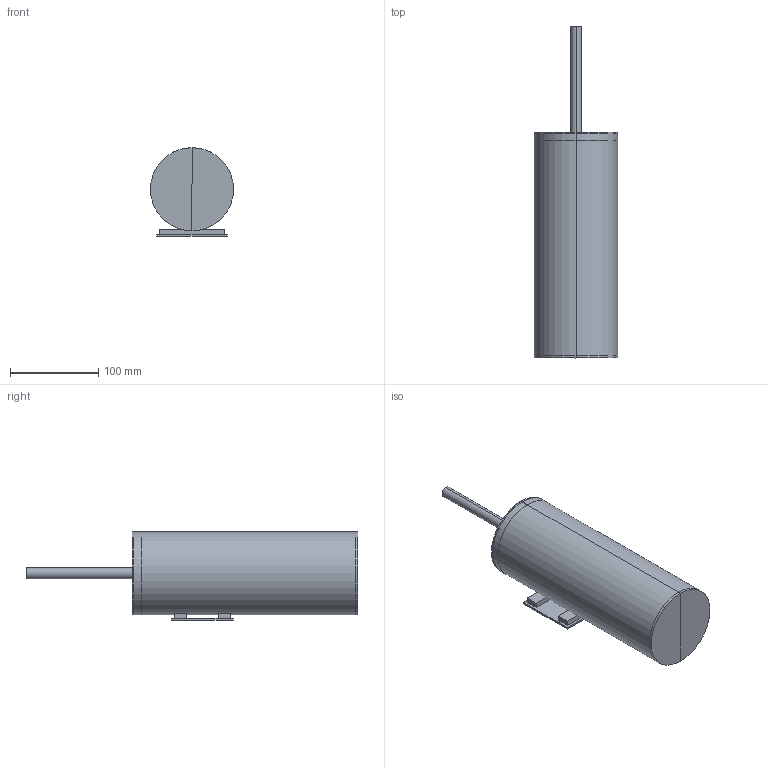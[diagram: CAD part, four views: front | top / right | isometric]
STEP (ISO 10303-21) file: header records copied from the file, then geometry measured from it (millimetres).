
FILE_DESCRIPTION(('FreeCAD Model'),'2;1');
FILE_NAME('Open CASCADE Shape Model','2024-11-19T16:45:20',('Author'),( ''),'Open CASCADE STEP processor 7.6','FreeCAD','Unknown');
FILE_SCHEMA(('AUTOMOTIVE_DESIGN { 1 0 10303 214 1 1 1 1 }'));
Length unit declared in the file: millimetre
Products named in the file (10): TopLevelAssembly; Wyciąganie001; Wyciąganie002; Wyciąganie003; Obrót profilu; Obrót profilu001; Obrót profilu002; Obrót profilu003; Obrót profilu004; Obrót profilu005
Assembly tree (9 placements, depth 2):
  TopLevelAssembly
    Wyciąganie001
    Wyciąganie002
    Wyciąganie003
    Obrót profilu
    Obrót profilu001
    Obrót profilu002
    Obrót profilu003
    Obrót profilu004
    Obrót profilu005
Bounding box: 94 x 375.3 x 100.1 mm (x, y, z)
Volume: 3454118.5 mm3; surface area: 229438.4 mm2
Topology: 9 solids, 9 shells, 56 faces, 88 edges, 50 vertices
Faces by surface type: plane 42, cylinder 12, bspline 2
Entity records: 1500 total; most frequent: DIRECTION 244, CARTESIAN_POINT 232, ORIENTED_EDGE 176, AXIS2_PLACEMENT_3D 92, EDGE_CURVE 88, LINE 60, VECTOR 60, ADVANCED_FACE 56
